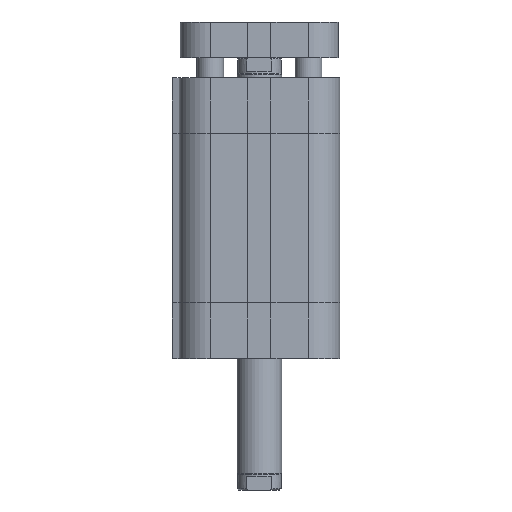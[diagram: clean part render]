
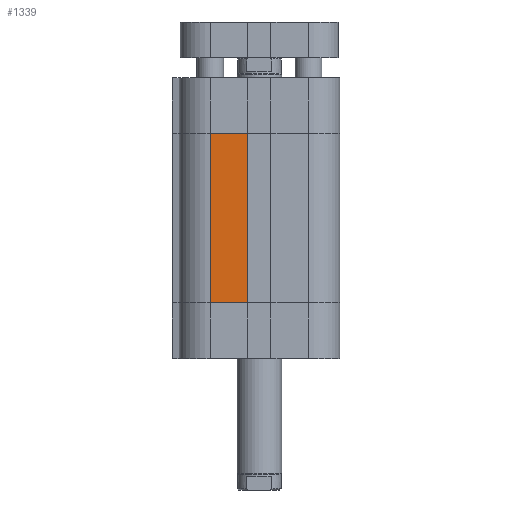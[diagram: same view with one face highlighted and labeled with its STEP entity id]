
A CAD part, left-side view. The second image highlights one B-rep face of the part: STEP entity #1339.
In plain terms, the highlighted planar face has unit normal (-1, 0, 0).
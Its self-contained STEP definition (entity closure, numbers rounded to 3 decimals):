
#1250=CARTESIAN_POINT('',(-18.,11.0,12.5));
#1251=VERTEX_POINT('',#1250);
#1259=CARTESIAN_POINT('',(-18.,11.0,50.5));
#1260=VERTEX_POINT('',#1259);
#1261=CARTESIAN_POINT('',(-18.,11.0,12.5));
#1262=DIRECTION('',(0.0,0.0,1.0));
#1263=VECTOR('',#1262,38.);
#1264=LINE('',#1261,#1263);
#1265=EDGE_CURVE('',#1251,#1260,#1264,.T.);
#1309=CARTESIAN_POINT('',(-18.0,2.6,0.0));
#1310=DIRECTION('',(-1.0,0.0,0.0));
#1311=DIRECTION('',(0.0,0.0,1.0));
#1312=AXIS2_PLACEMENT_3D('',#1309,#1310,#1311);
#1313=PLANE('',#1312);
#1314=CARTESIAN_POINT('',(-18.0,2.6,12.5));
#1315=VERTEX_POINT('',#1314);
#1316=CARTESIAN_POINT('',(-18.,11.0,12.5));
#1317=DIRECTION('',(0.0,-1.0,0.0));
#1318=VECTOR('',#1317,8.4);
#1319=LINE('',#1316,#1318);
#1320=EDGE_CURVE('',#1251,#1315,#1319,.T.);
#1321=ORIENTED_EDGE('',*,*,#1320,.T.);
#1322=CARTESIAN_POINT('',(-18.0,2.6,50.5));
#1323=VERTEX_POINT('',#1322);
#1324=CARTESIAN_POINT('',(-18.0,2.6,12.5));
#1325=DIRECTION('',(0.0,0.0,1.0));
#1326=VECTOR('',#1325,38.);
#1327=LINE('',#1324,#1326);
#1328=EDGE_CURVE('',#1315,#1323,#1327,.T.);
#1329=ORIENTED_EDGE('',*,*,#1328,.T.);
#1330=CARTESIAN_POINT('',(-18.,11.0,50.5));
#1331=DIRECTION('',(0.0,-1.0,0.0));
#1332=VECTOR('',#1331,8.4);
#1333=LINE('',#1330,#1332);
#1334=EDGE_CURVE('',#1260,#1323,#1333,.T.);
#1335=ORIENTED_EDGE('',*,*,#1334,.F.);
#1336=ORIENTED_EDGE('',*,*,#1265,.F.);
#1337=EDGE_LOOP('',(#1321,#1329,#1335,#1336));
#1338=FACE_OUTER_BOUND('',#1337,.T.);
#1339=ADVANCED_FACE('',(#1338),#1313,.T.);
